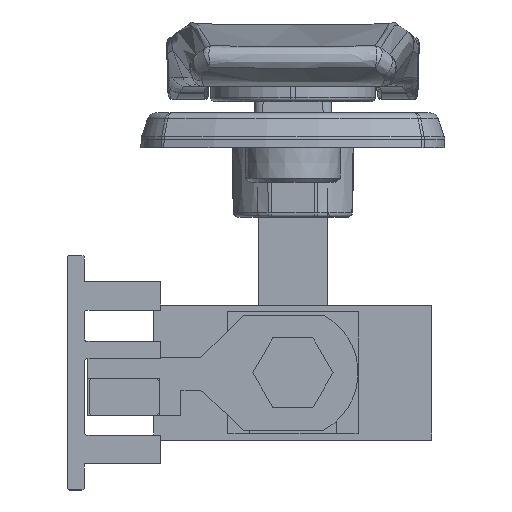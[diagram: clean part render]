
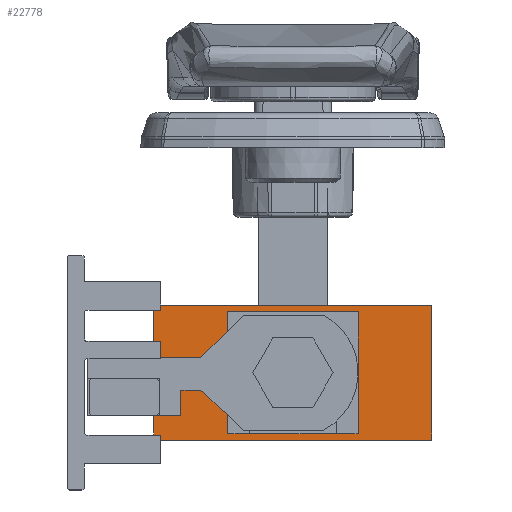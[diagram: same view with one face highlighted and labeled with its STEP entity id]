
A CAD part, front view. The second image highlights one B-rep face of the part: STEP entity #22778.
In plain terms, the highlighted planar face has unit normal (0, -1, 0).
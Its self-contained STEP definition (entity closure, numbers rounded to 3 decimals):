
#11 = VECTOR ( 'NONE', #12930, 1000. ) ;
#605 = DIRECTION ( 'NONE',  ( 0., 0., -1. ) ) ;
#1266 = VERTEX_POINT ( 'NONE', #20741 ) ;
#1889 = DIRECTION ( 'NONE',  ( 0., 0., -1. ) ) ;
#2361 = PLANE ( 'NONE',  #15455 ) ;
#2453 = CARTESIAN_POINT ( 'NONE',  ( -16., -72.75, -7.75 ) ) ;
#2836 = FACE_OUTER_BOUND ( 'NONE', #12637, .T. ) ;
#3038 = VECTOR ( 'NONE', #22147, 1000. ) ;
#3198 = VECTOR ( 'NONE', #4621, 1000. ) ;
#3617 = LINE ( 'NONE', #27955, #4200 ) ;
#3670 = LINE ( 'NONE', #22884, #10827 ) ;
#3846 = LINE ( 'NONE', #11157, #9812 ) ;
#4200 = VECTOR ( 'NONE', #15646, 1000. ) ;
#4286 = LINE ( 'NONE', #11585, #7587 ) ;
#4621 = DIRECTION ( 'NONE',  ( 0., 0., 1. ) ) ;
#4820 = VERTEX_POINT ( 'NONE', #10052 ) ;
#4932 = DIRECTION ( 'NONE',  ( 0., 1., 0. ) ) ;
#5180 = CARTESIAN_POINT ( 'NONE',  ( 7., -72.75, 6.25 ) ) ;
#5838 = ORIENTED_EDGE ( 'NONE', *, *, #14926, .T. ) ;
#6315 = CARTESIAN_POINT ( 'NONE',  ( -7., -72.75, -6.25 ) ) ;
#7195 = CARTESIAN_POINT ( 'NONE',  ( 7., -72.75, -6.25 ) ) ;
#7587 = VECTOR ( 'NONE', #1889, 1000. ) ;
#8006 = LINE ( 'NONE', #10380, #3038 ) ;
#8512 = EDGE_CURVE ( 'NONE', #1266, #4820, #15446, .T. ) ;
#9542 = CARTESIAN_POINT ( 'NONE',  ( 16., -72.75, 7.75 ) ) ;
#9623 = VERTEX_POINT ( 'NONE', #2453 ) ;
#9812 = VECTOR ( 'NONE', #19003, 1000. ) ;
#10052 = CARTESIAN_POINT ( 'NONE',  ( -7., -72.75, 6.25 ) ) ;
#10380 = CARTESIAN_POINT ( 'NONE',  ( -7., -72.75, -6.25 ) ) ;
#10802 = VECTOR ( 'NONE', #605, 1000. ) ;
#10827 = VECTOR ( 'NONE', #14665, 1000. ) ;
#10901 = EDGE_CURVE ( 'NONE', #18742, #12671, #3617, .T. ) ;
#11157 = CARTESIAN_POINT ( 'NONE',  ( -16., -72.75, -7.75 ) ) ;
#11585 = CARTESIAN_POINT ( 'NONE',  ( 16., -72.75, 7.75 ) ) ;
#11995 = EDGE_CURVE ( 'NONE', #19252, #13505, #8006, .T. ) ;
#12061 = DIRECTION ( 'NONE',  ( 0., 0., 1. ) ) ;
#12356 = CARTESIAN_POINT ( 'NONE',  ( -16., -72.75, 7.75 ) ) ;
#12637 = EDGE_LOOP ( 'NONE', ( #16398, #25274, #22454, #5838 ) ) ;
#12671 = VERTEX_POINT ( 'NONE', #9542 ) ;
#12930 = DIRECTION ( 'NONE',  ( -1., 0., 0. ) ) ;
#13505 = VERTEX_POINT ( 'NONE', #7195 ) ;
#13574 = ORIENTED_EDGE ( 'NONE', *, *, #13893, .F. ) ;
#13893 = EDGE_CURVE ( 'NONE', #13505, #1266, #31014, .T. ) ;
#14665 = DIRECTION ( 'NONE',  ( 0., 0., -1. ) ) ;
#14744 = CARTESIAN_POINT ( 'NONE',  ( -16., -72.75, 7.75 ) ) ;
#14879 = LINE ( 'NONE', #12356, #10802 ) ;
#14926 = EDGE_CURVE ( 'NONE', #18742, #9623, #14879, .T. ) ;
#15446 = LINE ( 'NONE', #5180, #11 ) ;
#15455 = AXIS2_PLACEMENT_3D ( 'NONE', #14744, #4932, #12061 ) ;
#15646 = DIRECTION ( 'NONE',  ( 1., 0., 0. ) ) ;
#15977 = EDGE_CURVE ( 'NONE', #9623, #22053, #3846, .T. ) ;
#16398 = ORIENTED_EDGE ( 'NONE', *, *, #15977, .T. ) ;
#16464 = EDGE_CURVE ( 'NONE', #12671, #22053, #4286, .T. ) ;
#17812 = EDGE_CURVE ( 'NONE', #4820, #19252, #3670, .T. ) ;
#18742 = VERTEX_POINT ( 'NONE', #29474 ) ;
#19003 = DIRECTION ( 'NONE',  ( 1., 0., 0. ) ) ;
#19252 = VERTEX_POINT ( 'NONE', #6315 ) ;
#19388 = CARTESIAN_POINT ( 'NONE',  ( 16., -72.75, -7.75 ) ) ;
#20741 = CARTESIAN_POINT ( 'NONE',  ( 7., -72.75, 6.25 ) ) ;
#21160 = CARTESIAN_POINT ( 'NONE',  ( 7., -72.75, 6.25 ) ) ;
#22001 = ORIENTED_EDGE ( 'NONE', *, *, #17812, .F. ) ;
#22053 = VERTEX_POINT ( 'NONE', #19388 ) ;
#22147 = DIRECTION ( 'NONE',  ( 1., 0., 0. ) ) ;
#22454 = ORIENTED_EDGE ( 'NONE', *, *, #10901, .F. ) ;
#22532 = ORIENTED_EDGE ( 'NONE', *, *, #11995, .F. ) ;
#22778 = ADVANCED_FACE ( 'NONE', ( #29581, #2836 ), #2361, .F. ) ;
#22884 = CARTESIAN_POINT ( 'NONE',  ( -7., -72.75, -6.25 ) ) ;
#25274 = ORIENTED_EDGE ( 'NONE', *, *, #16464, .F. ) ;
#27955 = CARTESIAN_POINT ( 'NONE',  ( -16., -72.75, 7.75 ) ) ;
#29474 = CARTESIAN_POINT ( 'NONE',  ( -16., -72.75, 7.75 ) ) ;
#29581 = FACE_BOUND ( 'NONE', #31036, .T. ) ;
#30925 = ORIENTED_EDGE ( 'NONE', *, *, #8512, .F. ) ;
#31014 = LINE ( 'NONE', #21160, #3198 ) ;
#31036 = EDGE_LOOP ( 'NONE', ( #22001, #30925, #13574, #22532 ) ) ;
